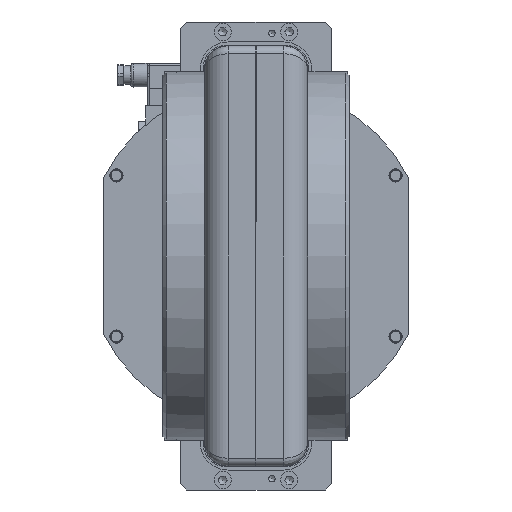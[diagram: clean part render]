
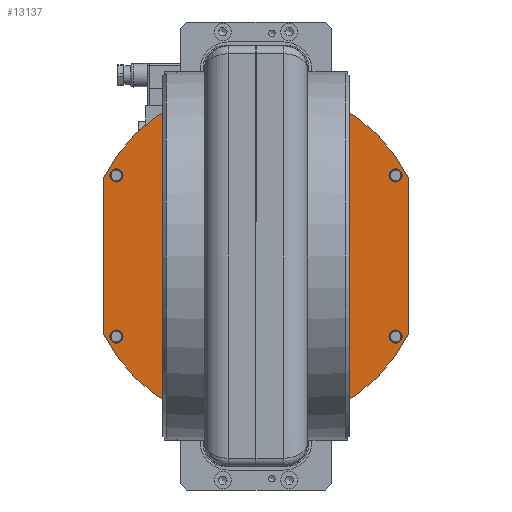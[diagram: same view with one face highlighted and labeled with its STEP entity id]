
A CAD part, left-side view. The second image highlights one B-rep face of the part: STEP entity #13137.
In plain terms, the highlighted planar face has unit normal (-1, 0, 0) as drawn and (0, 0, -1) by its records, which use the part's own axes.
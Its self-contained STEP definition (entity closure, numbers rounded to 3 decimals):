
#6016=LINE('',#51904,#7589);
#6017=LINE('',#51905,#7590);
#6018=LINE('',#51906,#7591);
#6019=LINE('',#51910,#7592);
#7589=VECTOR('',#37970,1.);
#7590=VECTOR('',#37971,1.);
#7591=VECTOR('',#37972,1.);
#7592=VECTOR('',#37975,1.);
#11430=FACE_BOUND('',#16953,.T.);
#11431=FACE_BOUND('',#16954,.T.);
#11432=FACE_BOUND('',#16955,.T.);
#11433=FACE_BOUND('',#16956,.T.);
#11434=FACE_BOUND('',#16957,.T.);
#11435=FACE_BOUND('',#16958,.T.);
#11436=FACE_BOUND('',#16959,.T.);
#11437=FACE_BOUND('',#16960,.T.);
#11438=FACE_BOUND('',#16961,.T.);
#11439=FACE_BOUND('',#16962,.T.);
#11440=FACE_BOUND('',#16963,.T.);
#11441=FACE_BOUND('',#16964,.T.);
#11442=FACE_BOUND('',#16965,.T.);
#11443=FACE_BOUND('',#16966,.T.);
#13137=ADVANCED_FACE('',(#11430,#11431,#11432,#11433,#11434,#11435,#11436,
#11437,#11438,#11439,#11440,#11441,#11442,#11443),#14286,.T.);
#14286=PLANE('',#32582);
#16953=EDGE_LOOP('',(#22259));
#16954=EDGE_LOOP('',(#22260));
#16955=EDGE_LOOP('',(#22261));
#16956=EDGE_LOOP('',(#22262));
#16957=EDGE_LOOP('',(#22263));
#16958=EDGE_LOOP('',(#22264));
#16959=EDGE_LOOP('',(#22265));
#16960=EDGE_LOOP('',(#22266));
#16961=EDGE_LOOP('',(#22267));
#16962=EDGE_LOOP('',(#22268));
#16963=EDGE_LOOP('',(#22269));
#16964=EDGE_LOOP('',(#22270));
#16965=EDGE_LOOP('',(#22271,#22272,#22273,#22274,#22275,#22276,#22277,#22278));
#16966=EDGE_LOOP('',(#22279));
#22259=ORIENTED_EDGE('',*,*,#28882,.T.);
#22260=ORIENTED_EDGE('',*,*,#28883,.T.);
#22261=ORIENTED_EDGE('',*,*,#28884,.T.);
#22262=ORIENTED_EDGE('',*,*,#28885,.T.);
#22263=ORIENTED_EDGE('',*,*,#28886,.T.);
#22264=ORIENTED_EDGE('',*,*,#28887,.T.);
#22265=ORIENTED_EDGE('',*,*,#28888,.T.);
#22266=ORIENTED_EDGE('',*,*,#28889,.T.);
#22267=ORIENTED_EDGE('',*,*,#28890,.F.);
#22268=ORIENTED_EDGE('',*,*,#28891,.F.);
#22269=ORIENTED_EDGE('',*,*,#28892,.F.);
#22270=ORIENTED_EDGE('',*,*,#28893,.F.);
#22271=ORIENTED_EDGE('',*,*,#28894,.F.);
#22272=ORIENTED_EDGE('',*,*,#28875,.T.);
#22273=ORIENTED_EDGE('',*,*,#28895,.F.);
#22274=ORIENTED_EDGE('',*,*,#28879,.T.);
#22275=ORIENTED_EDGE('',*,*,#28896,.F.);
#22276=ORIENTED_EDGE('',*,*,#28897,.T.);
#22277=ORIENTED_EDGE('',*,*,#28898,.F.);
#22278=ORIENTED_EDGE('',*,*,#28869,.T.);
#22279=ORIENTED_EDGE('',*,*,#28880,.F.);
#25853=VERTEX_POINT('',#51849);
#25855=VERTEX_POINT('',#51852);
#25858=VERTEX_POINT('',#51859);
#25860=VERTEX_POINT('',#51863);
#25862=VERTEX_POINT('',#51868);
#25864=VERTEX_POINT('',#51872);
#25865=VERTEX_POINT('',#51876);
#25867=VERTEX_POINT('',#51881);
#25868=VERTEX_POINT('',#51883);
#25869=VERTEX_POINT('',#51885);
#25870=VERTEX_POINT('',#51887);
#25871=VERTEX_POINT('',#51889);
#25872=VERTEX_POINT('',#51891);
#25873=VERTEX_POINT('',#51893);
#25874=VERTEX_POINT('',#51895);
#25875=VERTEX_POINT('',#51897);
#25876=VERTEX_POINT('',#51899);
#25877=VERTEX_POINT('',#51901);
#25878=VERTEX_POINT('',#51903);
#25879=VERTEX_POINT('',#51907);
#25880=VERTEX_POINT('',#51909);
#28869=EDGE_CURVE('',#25855,#25853,#30511,.T.);
#28875=EDGE_CURVE('',#25858,#25860,#30514,.T.);
#28879=EDGE_CURVE('',#25862,#25864,#30516,.T.);
#28880=EDGE_CURVE('',#25865,#25865,#30517,.T.);
#28882=EDGE_CURVE('',#25867,#25867,#30519,.T.);
#28883=EDGE_CURVE('',#25868,#25868,#30520,.T.);
#28884=EDGE_CURVE('',#25869,#25869,#30521,.T.);
#28885=EDGE_CURVE('',#25870,#25870,#30522,.T.);
#28886=EDGE_CURVE('',#25871,#25871,#30523,.T.);
#28887=EDGE_CURVE('',#25872,#25872,#30524,.T.);
#28888=EDGE_CURVE('',#25873,#25873,#30525,.T.);
#28889=EDGE_CURVE('',#25874,#25874,#30526,.T.);
#28890=EDGE_CURVE('',#25875,#25875,#30527,.T.);
#28891=EDGE_CURVE('',#25876,#25876,#30528,.T.);
#28892=EDGE_CURVE('',#25877,#25877,#30529,.T.);
#28893=EDGE_CURVE('',#25878,#25878,#30530,.T.);
#28894=EDGE_CURVE('',#25858,#25853,#6016,.T.);
#28895=EDGE_CURVE('',#25862,#25860,#6017,.T.);
#28896=EDGE_CURVE('',#25879,#25864,#6018,.T.);
#28897=EDGE_CURVE('',#25879,#25880,#30531,.T.);
#28898=EDGE_CURVE('',#25855,#25880,#6019,.T.);
#30511=CIRCLE('',#32557,129.);
#30514=CIRCLE('',#32561,129.);
#30516=CIRCLE('',#32564,129.);
#30517=CIRCLE('',#32566,14.95);
#30519=CIRCLE('',#32569,4.25);
#30520=CIRCLE('',#32570,4.25);
#30521=CIRCLE('',#32571,4.25);
#30522=CIRCLE('',#32572,4.25);
#30523=CIRCLE('',#32573,4.25);
#30524=CIRCLE('',#32574,4.25);
#30525=CIRCLE('',#32575,4.25);
#30526=CIRCLE('',#32576,4.25);
#30527=CIRCLE('',#32577,4.2);
#30528=CIRCLE('',#32578,4.2);
#30529=CIRCLE('',#32579,4.2);
#30530=CIRCLE('',#32580,4.2);
#30531=CIRCLE('',#32581,129.);
#32557=AXIS2_PLACEMENT_3D('',#51851,#37917,#37918);
#32561=AXIS2_PLACEMENT_3D('',#51864,#37928,#37929);
#32564=AXIS2_PLACEMENT_3D('',#51873,#37936,#37937);
#32566=AXIS2_PLACEMENT_3D('',#51875,#37940,#37941);
#32569=AXIS2_PLACEMENT_3D('',#51880,#37946,#37947);
#32570=AXIS2_PLACEMENT_3D('',#51882,#37948,#37949);
#32571=AXIS2_PLACEMENT_3D('',#51884,#37950,#37951);
#32572=AXIS2_PLACEMENT_3D('',#51886,#37952,#37953);
#32573=AXIS2_PLACEMENT_3D('',#51888,#37954,#37955);
#32574=AXIS2_PLACEMENT_3D('',#51890,#37956,#37957);
#32575=AXIS2_PLACEMENT_3D('',#51892,#37958,#37959);
#32576=AXIS2_PLACEMENT_3D('',#51894,#37960,#37961);
#32577=AXIS2_PLACEMENT_3D('',#51896,#37962,#37963);
#32578=AXIS2_PLACEMENT_3D('',#51898,#37964,#37965);
#32579=AXIS2_PLACEMENT_3D('',#51900,#37966,#37967);
#32580=AXIS2_PLACEMENT_3D('',#51902,#37968,#37969);
#32581=AXIS2_PLACEMENT_3D('',#51908,#37973,#37974);
#32582=AXIS2_PLACEMENT_3D('',#51911,#37976,#37977);
#37917=DIRECTION('',(0.,0.,-1.));
#37918=DIRECTION('',(-1.,0.,0.));
#37928=DIRECTION('',(0.,0.,-1.));
#37929=DIRECTION('',(-1.,0.,0.));
#37936=DIRECTION('',(0.,0.,-1.));
#37937=DIRECTION('',(-1.,0.,0.));
#37940=DIRECTION('',(0.,0.,-1.));
#37941=DIRECTION('',(-1.,0.,0.));
#37946=DIRECTION('',(0.,0.,1.));
#37947=DIRECTION('',(1.,0.,0.));
#37948=DIRECTION('',(0.,0.,1.));
#37949=DIRECTION('',(1.,0.,0.));
#37950=DIRECTION('',(0.,0.,1.));
#37951=DIRECTION('',(1.,0.,0.));
#37952=DIRECTION('',(0.,0.,1.));
#37953=DIRECTION('',(1.,0.,0.));
#37954=DIRECTION('',(0.,0.,1.));
#37955=DIRECTION('',(1.,0.,0.));
#37956=DIRECTION('',(0.,0.,1.));
#37957=DIRECTION('',(1.,0.,0.));
#37958=DIRECTION('',(0.,0.,1.));
#37959=DIRECTION('',(1.,0.,0.));
#37960=DIRECTION('',(0.,0.,1.));
#37961=DIRECTION('',(1.,0.,0.));
#37962=DIRECTION('',(0.,0.,-1.));
#37963=DIRECTION('',(-1.,0.,0.));
#37964=DIRECTION('',(0.,0.,-1.));
#37965=DIRECTION('',(-1.,0.,0.));
#37966=DIRECTION('',(0.,0.,-1.));
#37967=DIRECTION('',(-1.,0.,0.));
#37968=DIRECTION('',(0.,0.,-1.));
#37969=DIRECTION('',(-1.,0.,0.));
#37970=DIRECTION('',(0.,-1.,0.));
#37971=DIRECTION('',(-1.,0.,0.));
#37972=DIRECTION('',(0.,1.,0.));
#37973=DIRECTION('',(0.,0.,-1.));
#37974=DIRECTION('',(-1.,0.,0.));
#37975=DIRECTION('',(1.,0.,0.));
#37976=DIRECTION('',(0.,0.,-1.));
#37977=DIRECTION('',(-1.,0.,0.));
#51849=CARTESIAN_POINT('',(-115.,-58.447,1.5));
#51851=CARTESIAN_POINT('',(0.,0.,1.5));
#51852=CARTESIAN_POINT('',(-58.447,-115.,1.5));
#51859=CARTESIAN_POINT('',(-115.,58.447,1.5));
#51863=CARTESIAN_POINT('',(-58.447,115.,1.5));
#51864=CARTESIAN_POINT('',(0.,0.,1.5));
#51868=CARTESIAN_POINT('',(58.447,115.,1.5));
#51872=CARTESIAN_POINT('',(115.,58.447,1.5));
#51873=CARTESIAN_POINT('',(0.,0.,1.5));
#51875=CARTESIAN_POINT('',(0.,0.,1.5));
#51876=CARTESIAN_POINT('',(-14.95,0.,1.5));
#51880=CARTESIAN_POINT('',(105.006,60.625,1.5));
#51881=CARTESIAN_POINT('',(109.256,60.625,1.5));
#51882=CARTESIAN_POINT('',(105.006,-60.625,1.5));
#51883=CARTESIAN_POINT('',(109.256,-60.625,1.5));
#51884=CARTESIAN_POINT('',(60.625,105.006,1.5));
#51885=CARTESIAN_POINT('',(64.875,105.006,1.5));
#51886=CARTESIAN_POINT('',(60.625,-105.006,1.5));
#51887=CARTESIAN_POINT('',(64.875,-105.006,1.5));
#51888=CARTESIAN_POINT('',(-60.625,105.006,1.5));
#51889=CARTESIAN_POINT('',(-56.375,105.006,1.5));
#51890=CARTESIAN_POINT('',(-60.625,-105.006,1.5));
#51891=CARTESIAN_POINT('',(-56.375,-105.006,1.5));
#51892=CARTESIAN_POINT('',(-105.006,60.625,1.5));
#51893=CARTESIAN_POINT('',(-100.756,60.625,1.5));
#51894=CARTESIAN_POINT('',(-105.006,-60.625,1.5));
#51895=CARTESIAN_POINT('',(-100.756,-60.625,1.5));
#51896=CARTESIAN_POINT('',(24.042,24.042,1.5));
#51897=CARTESIAN_POINT('',(19.842,24.042,1.5));
#51898=CARTESIAN_POINT('',(24.042,-24.042,1.5));
#51899=CARTESIAN_POINT('',(19.842,-24.042,1.5));
#51900=CARTESIAN_POINT('',(-24.042,24.042,1.5));
#51901=CARTESIAN_POINT('',(-28.242,24.042,1.5));
#51902=CARTESIAN_POINT('',(-24.042,-24.042,1.5));
#51903=CARTESIAN_POINT('',(-28.242,-24.042,1.5));
#51904=CARTESIAN_POINT('',(-115.,14.95,1.5));
#51905=CARTESIAN_POINT('',(0.,115.,1.5));
#51906=CARTESIAN_POINT('',(115.,14.95,1.5));
#51907=CARTESIAN_POINT('',(115.,-58.447,1.5));
#51908=CARTESIAN_POINT('',(0.,0.,1.5));
#51909=CARTESIAN_POINT('',(58.447,-115.,1.5));
#51910=CARTESIAN_POINT('',(0.,-115.,1.5));
#51911=CARTESIAN_POINT('',(0.,14.95,1.5));
